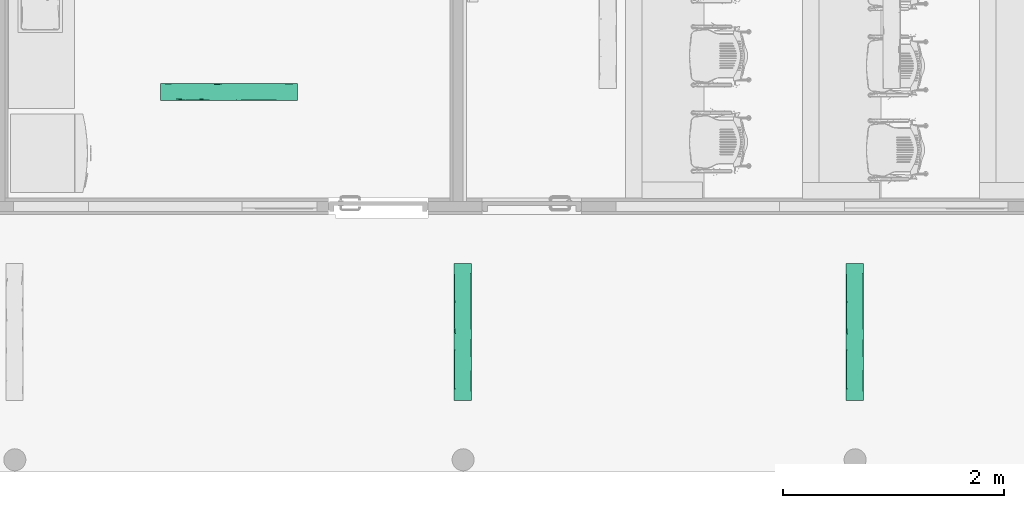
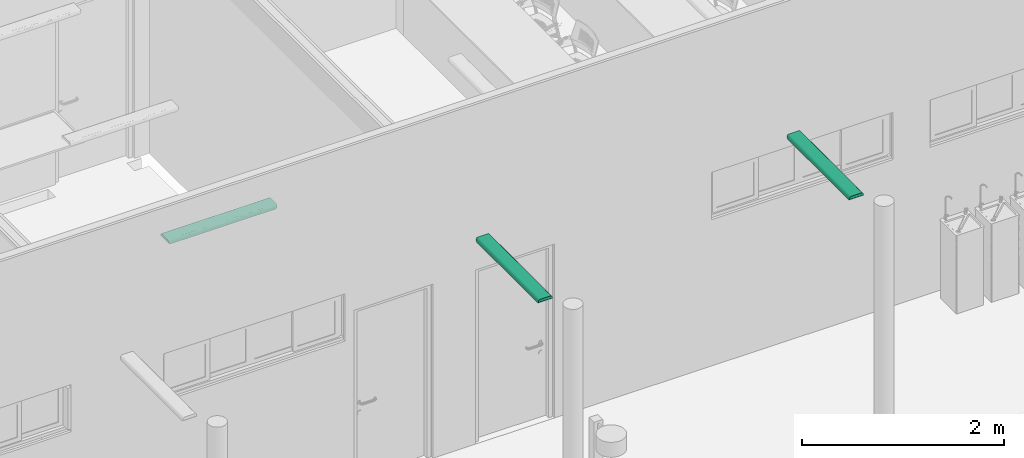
# One storey, part 63 of 155: 3 flow terminals.
"""IFC2X3 building model written with IfcOpenShell, lengths in metres."""

from ifc_helpers import new_model, entity, si_unit, converted_unit, derived_unit, direction, frame, origin, place, context, subcontext, project, spatial, faceted_brep, source, transform, mapped, material, material_list, type_object, type_shapes, element, save


model = new_model("IFC2X3")

# Units and contexts
model_context = context("Model", 3, precision=1e-05, world=origin(), true_north=direction((6.12303176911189e-17, 1.0)))
body_context = subcontext(model_context, "Body", "Model", "MODEL_VIEW")
ifc_project = project(units=[si_unit("LENGTHUNIT", "METRE"), si_unit("AREAUNIT", "SQUARE_METRE"), si_unit("VOLUMEUNIT", "CUBIC_METRE"), converted_unit("PLANEANGLEUNIT", "DEGREE", entity("IfcRatioMeasure", 0.0174532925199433), si_unit("PLANEANGLEUNIT", "RADIAN"), dimensions=[0, 0, 0, 0, 0, 0, 0]), si_unit("MASSUNIT", "GRAM", prefix="KILO"), derived_unit("MASSDENSITYUNIT", [(si_unit("MASSUNIT", "GRAM", prefix="KILO"), 1), (si_unit("LENGTHUNIT", "METRE"), -3)]), si_unit("TIMEUNIT", "SECOND"), si_unit("FREQUENCYUNIT", "HERTZ"), si_unit("THERMODYNAMICTEMPERATUREUNIT", "DEGREE_CELSIUS"), derived_unit("THERMALTRANSMITTANCEUNIT", [(si_unit("MASSUNIT", "GRAM", prefix="KILO"), 1), (si_unit("THERMODYNAMICTEMPERATUREUNIT", "KELVIN"), -1), (si_unit("TIMEUNIT", "SECOND"), -3)]), derived_unit("VOLUMETRICFLOWRATEUNIT", [(si_unit("LENGTHUNIT", "METRE"), 3), (si_unit("TIMEUNIT", "SECOND"), -1)]), si_unit("ELECTRICCURRENTUNIT", "AMPERE"), si_unit("ELECTRICVOLTAGEUNIT", "VOLT"), si_unit("POWERUNIT", "WATT"), si_unit("FORCEUNIT", "NEWTON", prefix="KILO"), si_unit("ILLUMINANCEUNIT", "LUX"), si_unit("LUMINOUSFLUXUNIT", "LUMEN"), si_unit("LUMINOUSINTENSITYUNIT", "CANDELA"), derived_unit("USERDEFINED", [(si_unit("MASSUNIT", "GRAM", prefix="KILO"), -1), (si_unit("LENGTHUNIT", "METRE"), -2), (si_unit("TIMEUNIT", "SECOND"), 3), (si_unit("LUMINOUSFLUXUNIT", "LUMEN"), 1)]), derived_unit("LINEARVELOCITYUNIT", [(si_unit("LENGTHUNIT", "METRE"), 1), (si_unit("TIMEUNIT", "SECOND"), -1)]), si_unit("PRESSUREUNIT", "PASCAL"), derived_unit("USERDEFINED", [(si_unit("LENGTHUNIT", "METRE"), -2), (si_unit("MASSUNIT", "GRAM", prefix="KILO"), 1), (si_unit("TIMEUNIT", "SECOND"), -2)])], contexts=[model_context])

# Site, building, storey, space
site_placement = place(None, frame((26.9889013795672, -17.5624287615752, 0.0)))
site = spatial("IfcSite", under=ifc_project, at=site_placement, Name="Default", CompositionType="ELEMENT")
building_placement = place(site_placement, origin())
building = spatial("IfcBuilding", under=site, at=building_placement, Name="C. C. L. Monsenhor Antônio Sampaio", CompositionType="ELEMENT")
storey_placement = place(building_placement, frame((0.0, 0.0, 1.19999999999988)))
storey = spatial("IfcBuildingStorey", under=building, at=storey_placement, Name="Nível 1.2", CompositionType="ELEMENT", Elevation=1.19999999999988)
space_1_placement = place(storey_placement, origin())
space_1 = spatial("IfcSpace", under=storey, at=space_1_placement, Name="90", CompositionType="ELEMENT", InteriorOrExteriorSpace="INTERNAL")

# Flow terminal
ifc_material_1 = material(Name="glass - blue - t85")
ifc_material_2 = material(Name="metal - aluminium")
ifc_material_list_1 = material_list([ifc_material_1, ifc_material_2])
ifc_material_list_2 = material_list([ifc_material_1, ifc_material_2])
light_fixture_type = type_object("IfcLightFixtureType", Name="BCS460 W16L124 1xLED24/840 MLO-PC", PredefinedType="NOTDEFINED", material=ifc_material_list_2)
shared_shape = source(origin(), body_context, "Body", "Brep", [
    faceted_brep([(0.585000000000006, 0.0435000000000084, -0.0460000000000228), (0.585000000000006, -0.0434999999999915, -0.0460000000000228), (0.585000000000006, -0.0434999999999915, -0.0490000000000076), (0.585000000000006, 0.0435000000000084, -0.0490000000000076), (-0.584999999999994, 0.0435000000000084, -0.0460000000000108), (-0.584999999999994, 0.0435000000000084, -0.0489999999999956), (-0.584999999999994, -0.0434999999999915, -0.0489999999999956), (-0.584999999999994, -0.0434999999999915, -0.0460000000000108)], [[[0, 1, 2, 3]], [[4, 5, 6, 7]], [[3, 5, 4, 0]], [[2, 6, 5, 3]], [[1, 7, 6, 2]], [[0, 4, 7, 1]]]),
    faceted_brep([(-0.584999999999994, -0.0434999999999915, -0.0489999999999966), (0.585000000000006, -0.0434999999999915, -0.0490000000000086), (0.585000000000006, -0.0554999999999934, -0.0490000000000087), (0.417543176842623, -0.0554999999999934, -0.0490000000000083), (0.334912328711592, -0.0554999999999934, -0.0490000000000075), (0.209867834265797, -0.0554999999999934, -0.0490000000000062), (0.0848246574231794, -0.0554999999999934, -0.0490000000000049), (-0.0826321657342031, -0.0554999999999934, -0.0490000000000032), (-0.250087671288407, -0.0554999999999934, -0.0490000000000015), (-0.417543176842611, -0.0554999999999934, -0.0489999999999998), (-0.584999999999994, -0.0554999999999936, -0.0489999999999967), (-0.584999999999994, 0.0435000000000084, -0.0489999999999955), (-0.584999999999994, 0.0555000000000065, -0.0489999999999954), (-0.417543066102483, 0.0555000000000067, -0.0489999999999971), (-0.334913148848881, 0.0555000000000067, -0.048999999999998), (-0.209868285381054, 0.0555000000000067, -0.0489999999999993), (-0.0848248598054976, 0.0555000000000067, -0.0490000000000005), (0.0826306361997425, 0.0555000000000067, -0.0490000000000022), (0.250087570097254, 0.0555000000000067, -0.049000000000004), (0.417544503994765, 0.0555000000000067, -0.0490000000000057), (0.585000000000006, 0.0555000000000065, -0.0490000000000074), (0.585000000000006, 0.0435000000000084, -0.0490000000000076), (0.585000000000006, -0.0434999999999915, -0.0190000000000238), (0.585000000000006, 0.0435000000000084, -0.0190000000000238), (0.585000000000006, 0.0614528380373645, -0.0482162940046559), (0.585000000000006, 0.0670000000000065, -0.0459185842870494), (0.585000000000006, 0.0717634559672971, -0.0422634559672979), (0.585000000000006, 0.0754185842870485, -0.0375000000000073), (0.585000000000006, 0.077716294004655, -0.0319528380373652), (0.585000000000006, 0.0785000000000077, -0.0260000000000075), (0.585000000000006, 0.0785000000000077, 0.0), (0.585000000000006, -0.0784999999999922, 0.0), (0.585000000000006, -0.0784999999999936, -0.02600000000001), (0.585000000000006, -0.0777162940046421, -0.031952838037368), (0.585000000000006, -0.0754185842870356, -0.03750000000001), (0.585000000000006, -0.0717634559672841, -0.0422634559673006), (0.585000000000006, -0.0669999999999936, -0.0459185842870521), (0.585000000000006, -0.0614528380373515, -0.0482162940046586), (-0.584999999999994, 0.0435000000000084, -0.0190000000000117), (-0.584999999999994, -0.0434999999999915, -0.0190000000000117), (-0.584999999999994, -0.0614528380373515, -0.0482162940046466), (-0.584999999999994, -0.0669999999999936, -0.0459185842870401), (-0.584999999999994, -0.0717634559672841, -0.0422634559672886), (-0.584999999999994, -0.0754185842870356, -0.037499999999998), (-0.584999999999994, -0.0777162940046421, -0.031952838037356), (-0.584999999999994, -0.0784999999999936, -0.025999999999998), (-0.584999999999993, -0.0784999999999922, 0.0), (-0.584999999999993, 0.0785000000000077, 0.0), (-0.584999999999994, 0.0785000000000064, -0.0259999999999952), (-0.584999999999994, 0.077716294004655, -0.0319528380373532), (-0.584999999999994, 0.0754185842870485, -0.0374999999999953), (-0.584999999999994, 0.0717634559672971, -0.0422634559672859), (-0.584999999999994, 0.0670000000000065, -0.0459185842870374), (-0.584999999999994, 0.0614528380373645, -0.0482162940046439), (0.417543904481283, 0.0785000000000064, -0.0260000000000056), (0.334912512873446, 0.0785000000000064, -0.0260000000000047), (0.209868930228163, 0.0785000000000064, -0.0260000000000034), (0.0848250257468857, 0.0785000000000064, -0.0260000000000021), (-0.0826310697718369, 0.0785000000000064, -0.0260000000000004), (-0.250087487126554, 0.0785000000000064, -0.0259999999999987), (-0.417543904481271, 0.0785000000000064, -0.025999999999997), (-0.430283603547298, 0.073747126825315, -0.0400015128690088), (-0.39346878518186, 0.069501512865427, -0.0442471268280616), (-0.441987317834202, 0.0643017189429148, -0.0472492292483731), (-0.435801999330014, 0.0759760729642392, -0.0364752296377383), (0.43028360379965, 0.0695015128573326, -0.0442471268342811), (0.393468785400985, 0.0737471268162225, -0.0400015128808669), (-0.166359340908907, 0.0777768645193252, -0.0317220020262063), (-0.333815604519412, 0.078144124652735, -0.0300303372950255), (0.441987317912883, 0.0767492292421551, -0.0348017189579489), (0.376228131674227, 0.0780233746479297, -0.0306580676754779), (-0.0103058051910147, 0.0779837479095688, -0.0308457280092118), (0.147346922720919, 0.0778835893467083, -0.0312891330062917), (0.0846877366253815, 0.0752228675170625, -0.0378325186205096), (0.113930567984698, 0.0669406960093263, -0.0459527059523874), (0.259392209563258, 0.0628104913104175, -0.0478072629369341), (0.138751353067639, 0.0626656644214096, -0.0478552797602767), (-0.327642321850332, 0.0767492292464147, -0.0348017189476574), (-0.44845841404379, 0.0775260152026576, -0.0326222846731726), (0.274715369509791, 0.0767492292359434, -0.0348017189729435), (0.37104983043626, 0.0643017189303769, -0.0472492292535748), (0.333815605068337, 0.0596187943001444, -0.0486282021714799), (0.0893720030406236, 0.0707479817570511, -0.0432191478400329), (-0.0153938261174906, 0.0683034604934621, -0.0451068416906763), (-0.376228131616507, 0.0601580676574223, -0.0485233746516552), (0.0434325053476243, 0.059742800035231, -0.048605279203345), (0.218757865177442, 0.0695015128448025, -0.0442471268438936), (0.464656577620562, 0.0597129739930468, -0.0486108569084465), (0.199843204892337, 0.0732493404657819, -0.0406274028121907), (-0.274715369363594, 0.0643017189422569, -0.0472492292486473), (-0.115235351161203, 0.073747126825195, -0.0400015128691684), (-0.150791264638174, 0.070206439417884, -0.0436839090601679), (-0.272759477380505, 0.0724713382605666, -0.0415233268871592), (-0.00814072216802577, 0.0636892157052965, -0.0474927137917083), (-0.14734692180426, 0.0607891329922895, -0.0483835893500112), (-0.269938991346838, 0.0692956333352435, -0.0444032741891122), (-0.201904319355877, 0.0758204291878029, -0.0367740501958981), (-0.0663340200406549, 0.0763921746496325, -0.0356185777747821), (-0.139314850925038, 0.066006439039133, -0.046460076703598), (-0.430283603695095, -0.0695015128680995, -0.0442471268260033), (-0.393468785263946, -0.073747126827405, -0.0400015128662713), (-0.44198731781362, -0.0767492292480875, -0.0348017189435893), (-0.435801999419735, -0.06597522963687, -0.0464760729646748), (0.430283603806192, -0.0737471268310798, -0.0400015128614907), (0.393468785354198, -0.0695015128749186, -0.0442471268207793), (-0.166359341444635, -0.061222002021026, -0.0482768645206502), (-0.333815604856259, -0.0595303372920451, -0.0486441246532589), (0.441987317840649, -0.0643017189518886, -0.0472492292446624), (0.37622813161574, -0.0601580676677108, -0.0485233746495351), (-0.0103058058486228, -0.0603457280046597, -0.0484837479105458), (0.147346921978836, -0.0607891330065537, -0.0483835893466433), (0.0846877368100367, -0.0673325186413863, -0.0457228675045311), (0.113930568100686, -0.0754527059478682, -0.0374406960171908), (0.259392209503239, -0.0773072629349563, -0.0333104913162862), (0.138751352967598, -0.0773552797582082, -0.0331656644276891), (-0.327642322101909, -0.0643017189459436, -0.047249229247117), (-0.448458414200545, -0.062122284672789, -0.048026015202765), (-0.417543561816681, -0.0784999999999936, -0.0259999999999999), (0.274715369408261, -0.0643017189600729, -0.0472492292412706), (0.371049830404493, -0.0767492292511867, -0.0348017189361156), (0.333815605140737, -0.0781282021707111, -0.0301187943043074), (0.250087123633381, -0.0784999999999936, -0.0260000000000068), (0.0893720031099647, -0.0727191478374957, -0.041247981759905), (-0.0153938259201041, -0.074606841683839, -0.0388034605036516), (-0.376228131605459, -0.0780233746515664, -0.0306580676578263), (0.0826306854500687, -0.0784999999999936, -0.026000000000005), (-0.0848257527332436, -0.0784999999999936, -0.0260000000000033), (0.0434325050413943, -0.0781052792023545, -0.030242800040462), (0.417543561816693, -0.0784999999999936, -0.0260000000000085), (0.21875786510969, -0.0737471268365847, -0.0400015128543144), (0.464656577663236, -0.0781108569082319, -0.0302129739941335), (0.19984320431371, -0.0701274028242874, -0.0437493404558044), (-0.274715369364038, -0.0767492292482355, -0.0348017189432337), (-0.115235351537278, -0.0695015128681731, -0.0442471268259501), (-0.150791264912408, -0.0731839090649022, -0.0407064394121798), (-0.209869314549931, -0.0784999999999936, -0.026000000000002), (-0.334912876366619, -0.0784999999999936, -0.0260000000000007), (-0.272759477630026, -0.071023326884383, -0.0429713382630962), (-0.00814072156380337, -0.0769927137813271, -0.0341892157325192), (-0.147346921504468, -0.0778835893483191, -0.03128913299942), (-0.269938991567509, -0.0739032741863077, -0.0397956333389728), (-0.201904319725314, -0.0662740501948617, -0.0463204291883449), (-0.0663340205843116, -0.0651185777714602, -0.0468921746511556), (-0.139314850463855, -0.0759600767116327, -0.0365064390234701)], [[[0, 1, 2, 3, 4, 5, 6, 7, 8, 9, 10]], [[11, 12, 13, 14, 15, 16, 17, 18, 19, 20, 21]], [[22, 23, 21, 20, 24, 25, 26, 27, 28, 29, 30, 31, 32, 33, 34, 35, 36, 37, 2, 1]], [[12, 11, 38, 39, 0, 10, 40, 41, 42, 43, 44, 45, 46, 47, 48, 49, 50, 51, 52, 53]], [[47, 30, 29, 54, 55, 56, 57, 58, 59, 60, 48]], [[61, 51, 50]], [[62, 51, 61]], [[51, 62, 52]], [[62, 63, 52]], [[63, 53, 52]], [[61, 50, 64]], [[26, 65, 66]], [[26, 25, 65]], [[54, 29, 28]], [[67, 68, 59]], [[69, 70, 28]], [[71, 72, 73]], [[74, 75, 76]], [[26, 66, 27]], [[77, 78, 68]], [[13, 12, 53]], [[69, 27, 66]], [[79, 73, 72]], [[24, 80, 25]], [[70, 79, 72]], [[69, 28, 27]], [[75, 81, 18]], [[82, 74, 83]], [[63, 84, 53]], [[17, 16, 85]], [[19, 18, 81]], [[75, 74, 86]], [[87, 81, 80]], [[73, 79, 88]], [[70, 56, 55, 54]], [[80, 86, 65]], [[89, 63, 62]], [[90, 83, 91]], [[84, 15, 14, 13]], [[61, 77, 92]], [[59, 68, 60]], [[78, 49, 48]], [[20, 87, 24]], [[93, 76, 85]], [[66, 65, 86]], [[65, 25, 80]], [[62, 61, 92]], [[77, 64, 78]], [[92, 90, 91]], [[89, 94, 84]], [[28, 70, 54]], [[79, 69, 66]], [[53, 84, 13]], [[91, 95, 92]], [[96, 90, 92]], [[56, 72, 57]], [[70, 69, 79]], [[70, 72, 56]], [[67, 59, 58]], [[71, 67, 58]], [[71, 58, 57]], [[83, 90, 82]], [[88, 82, 73]], [[96, 97, 90]], [[71, 73, 97]], [[15, 94, 16]], [[84, 63, 89]], [[84, 94, 15]], [[98, 83, 93]], [[83, 98, 91]], [[18, 17, 76]], [[62, 92, 95]], [[98, 95, 91]], [[98, 94, 89]], [[74, 76, 93]], [[93, 94, 98]], [[85, 16, 94]], [[19, 81, 87]], [[80, 81, 75]], [[19, 87, 20]], [[24, 87, 80]], [[78, 48, 60]], [[77, 68, 67]], [[68, 78, 60]], [[49, 78, 50]], [[78, 64, 50]], [[64, 77, 61]], [[94, 93, 85]], [[85, 76, 17]], [[97, 67, 71]], [[72, 71, 57]], [[77, 67, 96]], [[90, 97, 73]], [[97, 96, 67]], [[77, 96, 92]], [[80, 75, 86]], [[76, 75, 18]], [[95, 89, 62]], [[89, 95, 98]], [[86, 74, 82]], [[83, 74, 93]], [[86, 82, 88]], [[73, 82, 90]], [[88, 66, 86]], [[66, 88, 79]], [[99, 42, 41]], [[100, 42, 99]], [[42, 100, 43]], [[100, 101, 43]], [[101, 44, 43]], [[99, 41, 102]], [[35, 103, 104]], [[35, 34, 103]], [[3, 2, 37]], [[105, 106, 8]], [[107, 108, 37]], [[109, 110, 111]], [[112, 113, 114]], [[35, 104, 36]], [[115, 116, 106]], [[117, 45, 44]], [[107, 36, 104]], [[118, 111, 110]], [[33, 119, 34]], [[108, 118, 110]], [[107, 37, 36]], [[113, 120, 121]], [[122, 112, 123]], [[101, 124, 44]], [[125, 126, 127]], [[128, 121, 120]], [[113, 112, 129]], [[130, 120, 119]], [[111, 118, 131]], [[108, 5, 4, 3]], [[119, 129, 103]], [[132, 101, 100]], [[133, 123, 134]], [[124, 135, 136, 117]], [[99, 115, 137]], [[8, 106, 9]], [[116, 40, 10]], [[32, 130, 33]], [[138, 114, 127]], [[104, 103, 129]], [[103, 34, 119]], [[100, 99, 137]], [[115, 102, 116]], [[137, 133, 134]], [[132, 139, 124]], [[37, 108, 3]], [[118, 107, 104]], [[44, 124, 117]], [[134, 140, 137]], [[141, 133, 137]], [[5, 110, 6]], [[108, 107, 118]], [[108, 110, 5]], [[105, 8, 7]], [[109, 105, 7]], [[109, 7, 6]], [[123, 133, 122]], [[131, 122, 111]], [[141, 142, 133]], [[109, 111, 142]], [[135, 139, 126]], [[124, 101, 132]], [[124, 139, 135]], [[143, 123, 138]], [[123, 143, 134]], [[121, 125, 114]], [[100, 137, 140]], [[143, 140, 134]], [[143, 139, 132]], [[112, 114, 138]], [[138, 139, 143]], [[127, 126, 139]], [[128, 120, 130]], [[119, 120, 113]], [[128, 130, 32]], [[33, 130, 119]], [[116, 10, 9]], [[115, 106, 105]], [[106, 116, 9]], [[40, 116, 41]], [[116, 102, 41]], [[102, 115, 99]], [[139, 138, 127]], [[127, 114, 125]], [[142, 105, 109]], [[110, 109, 6]], [[115, 105, 141]], [[133, 142, 111]], [[142, 141, 105]], [[115, 141, 137]], [[119, 113, 129]], [[114, 113, 121]], [[140, 132, 100]], [[132, 140, 143]], [[129, 112, 122]], [[123, 112, 138]], [[129, 122, 131]], [[111, 122, 133]], [[131, 104, 129]], [[104, 131, 118]], [[31, 46, 45, 117, 136, 135, 126, 125, 121, 128, 32]], [[46, 31, 30, 47]], [[21, 23, 38, 11]], [[22, 1, 0, 39]], [[23, 22, 39, 38]]]),
    faceted_brep([(0.597000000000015, 0.0785000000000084, 0.0), (0.602952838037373, 0.0785000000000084, -0.000783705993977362), (0.608500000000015, 0.0785000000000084, -0.00308141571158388), (0.613263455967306, 0.0785000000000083, -0.00673654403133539), (0.616918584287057, 0.0785000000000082, -0.011499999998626), (0.619216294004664, 0.0785000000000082, -0.017047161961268), (0.620000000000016, 0.0785000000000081, -0.0229999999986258), (0.620000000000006, 0.0785000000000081, -0.0259999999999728), (0.585000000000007, 0.0785000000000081, -0.0259999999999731), (0.585000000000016, 0.0785000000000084, 0.0), (0.619216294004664, -0.0784999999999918, -0.0170471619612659), (0.616918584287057, -0.0784999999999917, -0.0114999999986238), (0.613263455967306, -0.0784999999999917, -0.00673654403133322), (0.608500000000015, -0.0784999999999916, -0.00308141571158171), (0.602952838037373, -0.0784999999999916, -0.000783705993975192), (0.597000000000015, -0.0784999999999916, 0.0), (0.585000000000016, -0.0784999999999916, 0.0), (0.585000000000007, -0.0784999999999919, -0.0260000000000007), (0.620000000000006, -0.0784999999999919, -0.0260000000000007), (0.620000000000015, -0.0784999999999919, -0.0229999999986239), (0.620000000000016, 0.0669999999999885, -0.0459185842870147), (0.620000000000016, 0.0717634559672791, -0.0422634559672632), (0.620000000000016, 0.0754185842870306, -0.0374999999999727), (0.620000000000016, 0.0777162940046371, -0.0319528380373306), (0.620000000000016, -0.0777162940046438, -0.0319528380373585), (0.620000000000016, -0.0754185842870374, -0.0375000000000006), (0.620000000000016, -0.071763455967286, -0.0422634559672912), (0.620000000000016, -0.0669999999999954, -0.0459185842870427), (0.620000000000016, -0.0614528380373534, -0.0482162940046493), (0.620000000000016, -0.0554999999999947, -0.0489999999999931), (0.620000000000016, 0.0554999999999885, -0.0489999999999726), (0.620000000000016, 0.0614528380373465, -0.0482162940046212), (0.585000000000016, 0.0554999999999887, -0.048999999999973), (0.585000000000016, -0.0554999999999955, -0.0490000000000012), (0.585000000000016, -0.0614528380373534, -0.0482162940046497), (0.585000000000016, -0.0669999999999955, -0.0459185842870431), (0.585000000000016, -0.071763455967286, -0.0422634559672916), (0.585000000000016, -0.0754185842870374, -0.0375000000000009), (0.585000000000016, -0.0777162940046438, -0.0319528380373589), (0.585000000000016, 0.0777162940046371, -0.031952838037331), (0.585000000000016, 0.0754185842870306, -0.037499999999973), (0.585000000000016, 0.0717634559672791, -0.0422634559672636), (0.585000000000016, 0.0669999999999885, -0.0459185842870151), (0.585000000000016, 0.0614528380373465, -0.0482162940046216)], [[[0, 1, 2, 3, 4, 5, 6, 7, 8, 9]], [[10, 11, 12, 13, 14, 15, 16, 17, 18, 19]], [[20, 21, 22, 23, 7, 6, 19, 18, 24, 25, 26, 27, 28, 29, 30, 31]], [[32, 33, 34, 35, 36, 37, 38, 17, 16, 9, 8, 39, 40, 41, 42, 43]], [[16, 15, 0, 9]], [[11, 10, 5, 4]], [[12, 11, 4, 3]], [[6, 5, 10, 19]], [[14, 13, 2, 1]], [[15, 14, 1, 0]], [[2, 13, 12, 3]], [[43, 31, 30, 32]], [[43, 42, 20, 31]], [[21, 20, 42, 41]], [[23, 22, 40, 39]], [[7, 23, 39, 8]], [[40, 22, 21, 41]], [[29, 33, 32, 30]], [[25, 24, 38, 37]], [[26, 25, 37, 36]], [[17, 38, 24, 18]], [[28, 27, 35, 34]], [[29, 28, 34, 33]], [[35, 27, 26, 36]]]),
    faceted_brep([(-0.608499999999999, 0.0785000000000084, -0.00308141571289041), (-0.602952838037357, 0.0785000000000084, -0.000783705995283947), (-0.597, 0.0785000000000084, 0.0), (-0.584999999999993, 0.0785000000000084, 0.0), (-0.584999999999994, 0.0785000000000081, -0.0260000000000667), (-0.619999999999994, 0.0785000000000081, -0.0260000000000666), (-0.619999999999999, 0.0785000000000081, -0.0229999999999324), (-0.619216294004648, 0.0785000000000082, -0.0170471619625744), (-0.616918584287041, 0.0785000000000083, -0.0114999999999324), (-0.61326345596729, 0.0785000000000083, -0.00673654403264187), (-0.584999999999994, -0.0784999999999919, -0.0260000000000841), (-0.584999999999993, -0.0784999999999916, 0.0), (-0.596999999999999, -0.0784999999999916, 0.0), (-0.602952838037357, -0.0784999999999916, -0.000783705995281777), (-0.608499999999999, -0.0784999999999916, -0.00308141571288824), (-0.61326345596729, -0.0784999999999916, -0.0067365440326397), (-0.616918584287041, -0.0784999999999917, -0.0114999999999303), (-0.619216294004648, -0.0784999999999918, -0.0170471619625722), (-0.619999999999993, -0.0784999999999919, -0.0229999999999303), (-0.619999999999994, -0.0784999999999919, -0.0260000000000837), (-0.619999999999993, 0.0777162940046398, -0.0319528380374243), (-0.619999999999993, 0.0754185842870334, -0.0375000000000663), (-0.619999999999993, 0.071763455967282, -0.042263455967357), (-0.619999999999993, 0.0669999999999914, -0.0459185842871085), (-0.619999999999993, 0.0614528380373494, -0.048216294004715), (-0.619999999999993, 0.0554999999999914, -0.0490000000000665), (-0.619999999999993, -0.0554999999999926, -0.0490000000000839), (-0.619999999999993, -0.0614528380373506, -0.0482162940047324), (-0.619999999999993, -0.0669999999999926, -0.0459185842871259), (-0.619999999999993, -0.0717634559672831, -0.0422634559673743), (-0.619999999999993, -0.0754185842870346, -0.0375000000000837), (-0.619999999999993, -0.0777162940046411, -0.0319528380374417), (-0.584999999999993, 0.0614528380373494, -0.0482162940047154), (-0.584999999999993, 0.0669999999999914, -0.0459185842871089), (-0.584999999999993, 0.071763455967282, -0.0422634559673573), (-0.584999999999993, 0.0754185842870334, -0.0375000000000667), (-0.584999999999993, 0.0777162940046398, -0.0319528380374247), (-0.584999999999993, -0.0777162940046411, -0.0319528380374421), (-0.584999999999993, -0.0754185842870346, -0.0375000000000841), (-0.584999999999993, -0.0717634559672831, -0.0422634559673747), (-0.584999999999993, -0.0669999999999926, -0.0459185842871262), (-0.584999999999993, -0.0614528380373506, -0.0482162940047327), (-0.584999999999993, -0.0554999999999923, -0.0490000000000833), (-0.584999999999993, 0.0554999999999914, -0.0490000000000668)], [[[0, 1, 2, 3, 4, 5, 6, 7, 8, 9]], [[10, 11, 12, 13, 14, 15, 16, 17, 18, 19]], [[5, 20, 21, 22, 23, 24, 25, 26, 27, 28, 29, 30, 31, 19, 18, 6]], [[32, 33, 34, 35, 36, 4, 3, 11, 10, 37, 38, 39, 40, 41, 42, 43]], [[12, 11, 3, 2]], [[14, 13, 1, 0]], [[15, 14, 0, 9]], [[2, 1, 13, 12]], [[17, 16, 8, 7]], [[18, 17, 7, 6]], [[8, 16, 15, 9]], [[22, 21, 35, 34]], [[36, 20, 5, 4]], [[21, 20, 36, 35]], [[24, 23, 33, 32]], [[25, 24, 32, 43]], [[33, 23, 22, 34]], [[26, 25, 43, 42]], [[28, 27, 41, 40]], [[29, 28, 40, 39]], [[42, 41, 27, 26]], [[31, 30, 38, 37]], [[19, 31, 37, 10]], [[38, 30, 29, 39]]]),
])
type_shapes(light_fixture_type, [shared_shape])
flow_terminal_1_placement = place(space_1_placement, frame((1.72944770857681, -15.7930663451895, 2.8), z_axis=(0.0, 0.0, -1.0), x_axis=(-1.0, 0.0, 0.0)))
element("IfcFlowTerminal", 1, at=flow_terminal_1_placement, inside=space_1, type_object=light_fixture_type, material=ifc_material_list_1, Name="63_PHILIPS_smartform-LED-surface_f:BCS460 W16L124 1xLED24/840 MLO-PC", ObjectType="BCS460 W16L124 1xLED24/840 MLO-PC", context=body_context, shape_type="MappedRepresentation", body=[
    mapped(shared_shape, transform((0.0, 0.0, 0.0), scale=1.0)),
])

# Space
space_2_placement = place(storey_placement, origin())
space_2 = spatial("IfcSpace", under=storey, at=space_2_placement, Name="103", CompositionType="ELEMENT", InteriorOrExteriorSpace="INTERNAL")

# Flow terminals
ifc_material_list_3 = material_list([ifc_material_1, ifc_material_2])
flow_terminal_2_placement = place(space_2_placement, frame((7.39613509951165, -17.9656095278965, 2.8), z_axis=(0.0, 0.0, -1.0), x_axis=(0.0, -1.0, 0.0)))
element("IfcFlowTerminal", 2, at=flow_terminal_2_placement, inside=space_2, type_object=light_fixture_type, material=ifc_material_list_3, Name="63_PHILIPS_smartform-LED-surface_f:BCS460 W16L124 1xLED24/840 MLO-PC", ObjectType="BCS460 W16L124 1xLED24/840 MLO-PC", context=body_context, shape_type="MappedRepresentation", body=[
    mapped(shared_shape, transform((0.0, 0.0, 0.0), scale=1.0)),
])
ifc_material_list_4 = material_list([ifc_material_1, ifc_material_2])
flow_terminal_3_placement = place(space_2_placement, frame((3.84613509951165, -17.9656095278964, 2.8), z_axis=(0.0, 0.0, -1.0), x_axis=(0.0, -1.0, 0.0)))
element("IfcFlowTerminal", 3, at=flow_terminal_3_placement, inside=space_2, type_object=light_fixture_type, material=ifc_material_list_4, Name="63_PHILIPS_smartform-LED-surface_f:BCS460 W16L124 1xLED24/840 MLO-PC", ObjectType="BCS460 W16L124 1xLED24/840 MLO-PC", context=body_context, shape_type="MappedRepresentation", body=[
    mapped(shared_shape, transform((0.0, 0.0, 0.0), scale=1.0)),
])

save(model, "model.ifc")
